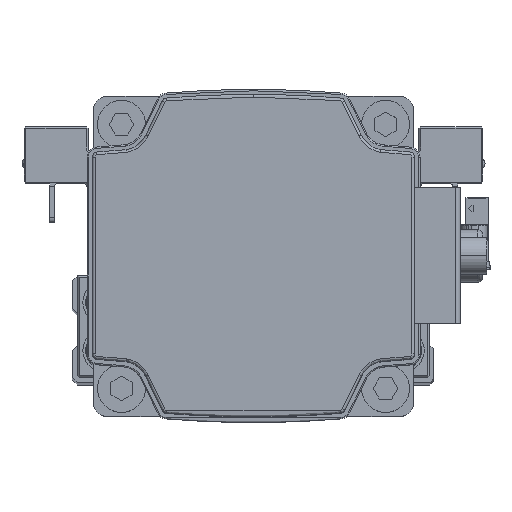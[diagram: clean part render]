
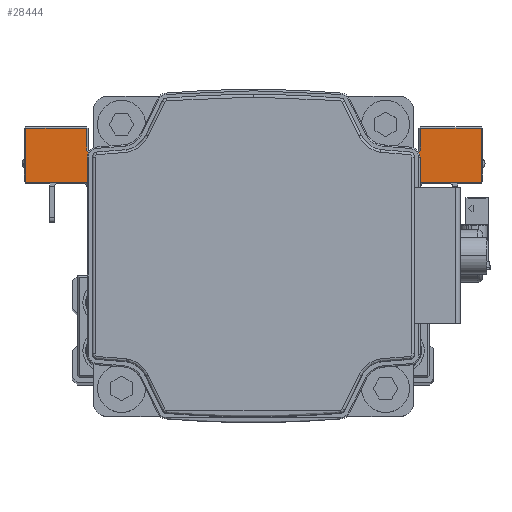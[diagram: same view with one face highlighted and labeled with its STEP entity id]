
A CAD part, top view. The second image highlights one B-rep face of the part: STEP entity #28444.
In plain terms, the highlighted planar face has unit normal (0, 0, 1) as drawn and (1, 0, 0) by its records, which use the part's own axes.
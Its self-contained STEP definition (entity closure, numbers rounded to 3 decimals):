
#525 = EDGE_LOOP ( 'NONE', ( #7866, #1945, #18145, #25231, #32655, #26023, #18901, #15842, #18084, #1996, #5198, #31383, #30307, #11603, #27189, #3724 ) ) ;
#659 = DIRECTION ( 'NONE',  ( 0., 0., 1. ) ) ;
#802 = EDGE_CURVE ( 'NONE', #25732, #29377, #17938, .T. ) ;
#1566 = DIRECTION ( 'NONE',  ( 0., 0., 1. ) ) ;
#1945 = ORIENTED_EDGE ( 'NONE', *, *, #4379, .T. ) ;
#1969 = VECTOR ( 'NONE', #5864, 1000. ) ;
#1995 = AXIS2_PLACEMENT_3D ( 'NONE', #23605, #35674, #8577 ) ;
#1996 = ORIENTED_EDGE ( 'NONE', *, *, #33451, .T. ) ;
#2128 = CARTESIAN_POINT ( 'NONE',  ( 25.5, 12.7, 30. ) ) ;
#2466 = EDGE_CURVE ( 'NONE', #30105, #31858, #20879, .T. ) ;
#2873 = EDGE_CURVE ( 'NONE', #12958, #6426, #19032, .T. ) ;
#2924 = DIRECTION ( 'NONE',  ( 0., 0., -1. ) ) ;
#3005 = DIRECTION ( 'NONE',  ( 0., 0., 1. ) ) ;
#3187 = DIRECTION ( 'NONE',  ( 0., 0., -1. ) ) ;
#3724 = ORIENTED_EDGE ( 'NONE', *, *, #18385, .T. ) ;
#4282 = VECTOR ( 'NONE', #3187, 1000. ) ;
#4379 = EDGE_CURVE ( 'NONE', #34092, #4758, #37243, .T. ) ;
#4758 = VERTEX_POINT ( 'NONE', #34238 ) ;
#4777 = CARTESIAN_POINT ( 'NONE',  ( 25.5, 7.5, -15. ) ) ;
#5118 = CARTESIAN_POINT ( 'NONE',  ( 25.5, 7.5, 42.7 ) ) ;
#5198 = ORIENTED_EDGE ( 'NONE', *, *, #802, .T. ) ;
#5218 = VECTOR ( 'NONE', #32530, 1000. ) ;
#5440 = VECTOR ( 'NONE', #17521, 1000. ) ;
#5478 = CARTESIAN_POINT ( 'NONE',  ( 25.5, 7.5, 15. ) ) ;
#5864 = DIRECTION ( 'NONE',  ( 0., 1., 0. ) ) ;
#5964 = PLANE ( 'NONE',  #13905 ) ;
#6426 = VERTEX_POINT ( 'NONE', #28048 ) ;
#6654 = EDGE_CURVE ( 'NONE', #19455, #20785, #32573, .T. ) ;
#6774 = CIRCLE ( 'NONE', #28889, 1.3 ) ;
#7308 = EDGE_CURVE ( 'NONE', #4758, #14283, #9569, .T. ) ;
#7866 = ORIENTED_EDGE ( 'NONE', *, *, #20089, .T. ) ;
#7927 = VERTEX_POINT ( 'NONE', #2128 ) ;
#8400 = LINE ( 'NONE', #20455, #5218 ) ;
#8564 = VECTOR ( 'NONE', #1566, 1000. ) ;
#8577 = DIRECTION ( 'NONE',  ( 0., 0., 1. ) ) ;
#8853 = DIRECTION ( 'NONE',  ( 0., 0., -1. ) ) ;
#9569 = LINE ( 'NONE', #21633, #19998 ) ;
#9772 = EDGE_CURVE ( 'NONE', #7927, #30105, #6774, .T. ) ;
#10144 = CARTESIAN_POINT ( 'NONE',  ( 25.5, 7.5, -42.7 ) ) ;
#10874 = CARTESIAN_POINT ( 'NONE',  ( 25.5, 17.7, 31.3 ) ) ;
#11603 = ORIENTED_EDGE ( 'NONE', *, *, #21164, .T. ) ;
#11719 = DIRECTION ( 'NONE',  ( -1., 0., 0. ) ) ;
#11733 = CARTESIAN_POINT ( 'NONE',  ( 25.5, 14., 30. ) ) ;
#11896 = VECTOR ( 'NONE', #16825, 1000. ) ;
#12279 = EDGE_CURVE ( 'NONE', #29377, #19455, #34065, .T. ) ;
#12523 = VECTOR ( 'NONE', #659, 1000. ) ;
#12958 = VERTEX_POINT ( 'NONE', #38464 ) ;
#13905 = AXIS2_PLACEMENT_3D ( 'NONE', #17996, #30084, #3005 ) ;
#14165 = CARTESIAN_POINT ( 'NONE',  ( 25.5, 5.5, 17. ) ) ;
#14213 = EDGE_CURVE ( 'NONE', #31858, #36149, #16575, .T. ) ;
#14283 = VERTEX_POINT ( 'NONE', #38127 ) ;
#14942 = LINE ( 'NONE', #27029, #34329 ) ;
#15084 = CARTESIAN_POINT ( 'NONE',  ( 25.5, 5.5, -15. ) ) ;
#15453 = CARTESIAN_POINT ( 'NONE',  ( 25.5, -7.5, -15. ) ) ;
#15670 = LINE ( 'NONE', #27744, #12523 ) ;
#15842 = ORIENTED_EDGE ( 'NONE', *, *, #2466, .T. ) ;
#16575 = LINE ( 'NONE', #28656, #8564 ) ;
#16825 = DIRECTION ( 'NONE',  ( 0., -1., 0. ) ) ;
#16981 = AXIS2_PLACEMENT_3D ( 'NONE', #14165, #26247, #38307 ) ;
#17083 = CARTESIAN_POINT ( 'NONE',  ( 25.5, -7.5, 15. ) ) ;
#17392 = AXIS2_PLACEMENT_3D ( 'NONE', #38824, #11719, #23796 ) ;
#17521 = DIRECTION ( 'NONE',  ( 0., -1., 0. ) ) ;
#17938 = LINE ( 'NONE', #30015, #19265 ) ;
#17996 = CARTESIAN_POINT ( 'NONE',  ( 25.5, 7.5, -15. ) ) ;
#18084 = ORIENTED_EDGE ( 'NONE', *, *, #14213, .T. ) ;
#18145 = ORIENTED_EDGE ( 'NONE', *, *, #7308, .T. ) ;
#18204 = LINE ( 'NONE', #30284, #4282 ) ;
#18385 = EDGE_CURVE ( 'NONE', #18431, #38305, #34480, .T. ) ;
#18431 = VERTEX_POINT ( 'NONE', #15084 ) ;
#18901 = ORIENTED_EDGE ( 'NONE', *, *, #9772, .T. ) ;
#19032 = CIRCLE ( 'NONE', #1995, 1.3 ) ;
#19265 = VECTOR ( 'NONE', #2924, 1000. ) ;
#19455 = VERTEX_POINT ( 'NONE', #28763 ) ;
#19632 = CARTESIAN_POINT ( 'NONE',  ( 25.5, 7.5, -42.7 ) ) ;
#19998 = VECTOR ( 'NONE', #33711, 1000. ) ;
#20089 = EDGE_CURVE ( 'NONE', #38305, #34092, #18204, .T. ) ;
#20455 = CARTESIAN_POINT ( 'NONE',  ( 25.5, 7.5, -31.3 ) ) ;
#20785 = VERTEX_POINT ( 'NONE', #17083 ) ;
#20879 = LINE ( 'NONE', #32966, #1969 ) ;
#21164 = EDGE_CURVE ( 'NONE', #20785, #23296, #23879, .T. ) ;
#21470 = CARTESIAN_POINT ( 'NONE',  ( 25.5, 7.5, 17. ) ) ;
#21633 = CARTESIAN_POINT ( 'NONE',  ( 25.5, 17.7, -15. ) ) ;
#22206 = DIRECTION ( 'NONE',  ( 0., 1., 0. ) ) ;
#23296 = VERTEX_POINT ( 'NONE', #15453 ) ;
#23605 = CARTESIAN_POINT ( 'NONE',  ( 25.5, 14., -30. ) ) ;
#23796 = DIRECTION ( 'NONE',  ( 0., 0., 1. ) ) ;
#23804 = DIRECTION ( 'NONE',  ( -1., 0., 0. ) ) ;
#23879 = LINE ( 'NONE', #35947, #38584 ) ;
#24580 = EDGE_CURVE ( 'NONE', #6426, #7927, #15670, .T. ) ;
#24746 = EDGE_CURVE ( 'NONE', #18431, #23296, #31885, .T. ) ;
#25231 = ORIENTED_EDGE ( 'NONE', *, *, #38957, .T. ) ;
#25732 = VERTEX_POINT ( 'NONE', #5118 ) ;
#26023 = ORIENTED_EDGE ( 'NONE', *, *, #24580, .T. ) ;
#26247 = DIRECTION ( 'NONE',  ( -1., 0., 0. ) ) ;
#27029 = CARTESIAN_POINT ( 'NONE',  ( 25.5, 7.5, 42.7 ) ) ;
#27189 = ORIENTED_EDGE ( 'NONE', *, *, #24746, .F. ) ;
#27744 = CARTESIAN_POINT ( 'NONE',  ( 25.5, 12.7, 30. ) ) ;
#28048 = CARTESIAN_POINT ( 'NONE',  ( 25.5, 12.7, -30. ) ) ;
#28444 = ADVANCED_FACE ( 'NONE', ( #33067 ), #5964, .F. ) ;
#28451 = CARTESIAN_POINT ( 'NONE',  ( 25.5, 17.7, 42.7 ) ) ;
#28656 = CARTESIAN_POINT ( 'NONE',  ( 25.5, 17.7, -15. ) ) ;
#28763 = CARTESIAN_POINT ( 'NONE',  ( 25.5, 5.5, 15. ) ) ;
#28889 = AXIS2_PLACEMENT_3D ( 'NONE', #11733, #23804, #35881 ) ;
#29377 = VERTEX_POINT ( 'NONE', #21470 ) ;
#30015 = CARTESIAN_POINT ( 'NONE',  ( 25.5, 7.5, 43. ) ) ;
#30084 = DIRECTION ( 'NONE',  ( -1., 0., 0. ) ) ;
#30105 = VERTEX_POINT ( 'NONE', #35970 ) ;
#30284 = CARTESIAN_POINT ( 'NONE',  ( 25.5, 7.5, 43. ) ) ;
#30307 = ORIENTED_EDGE ( 'NONE', *, *, #6654, .T. ) ;
#31383 = ORIENTED_EDGE ( 'NONE', *, *, #12279, .T. ) ;
#31858 = VERTEX_POINT ( 'NONE', #10874 ) ;
#31885 = LINE ( 'NONE', #4777, #11896 ) ;
#32530 = DIRECTION ( 'NONE',  ( 0., -1., 0. ) ) ;
#32573 = LINE ( 'NONE', #5478, #5440 ) ;
#32655 = ORIENTED_EDGE ( 'NONE', *, *, #2873, .T. ) ;
#32966 = CARTESIAN_POINT ( 'NONE',  ( 25.5, 7.5, 31.3 ) ) ;
#33067 = FACE_OUTER_BOUND ( 'NONE', #525, .T. ) ;
#33451 = EDGE_CURVE ( 'NONE', #36149, #25732, #14942, .T. ) ;
#33690 = VECTOR ( 'NONE', #22206, 1000. ) ;
#33711 = DIRECTION ( 'NONE',  ( 0., 0., 1. ) ) ;
#34065 = CIRCLE ( 'NONE', #16981, 2. ) ;
#34092 = VERTEX_POINT ( 'NONE', #19632 ) ;
#34238 = CARTESIAN_POINT ( 'NONE',  ( 25.5, 17.7, -42.7 ) ) ;
#34329 = VECTOR ( 'NONE', #39087, 1000. ) ;
#34378 = CARTESIAN_POINT ( 'NONE',  ( 25.5, 7.5, -17. ) ) ;
#34480 = CIRCLE ( 'NONE', #17392, 2. ) ;
#35674 = DIRECTION ( 'NONE',  ( -1., 0., 0. ) ) ;
#35881 = DIRECTION ( 'NONE',  ( 0., 0., 1. ) ) ;
#35947 = CARTESIAN_POINT ( 'NONE',  ( 25.5, -7.5, -15. ) ) ;
#35970 = CARTESIAN_POINT ( 'NONE',  ( 25.5, 14., 31.3 ) ) ;
#36149 = VERTEX_POINT ( 'NONE', #28451 ) ;
#37243 = LINE ( 'NONE', #10144, #33690 ) ;
#38127 = CARTESIAN_POINT ( 'NONE',  ( 25.5, 17.7, -31.3 ) ) ;
#38305 = VERTEX_POINT ( 'NONE', #34378 ) ;
#38307 = DIRECTION ( 'NONE',  ( 0., 0., 1. ) ) ;
#38464 = CARTESIAN_POINT ( 'NONE',  ( 25.5, 14., -31.3 ) ) ;
#38584 = VECTOR ( 'NONE', #8853, 1000. ) ;
#38824 = CARTESIAN_POINT ( 'NONE',  ( 25.5, 5.5, -17. ) ) ;
#38957 = EDGE_CURVE ( 'NONE', #14283, #12958, #8400, .T. ) ;
#39087 = DIRECTION ( 'NONE',  ( 0., -1., 0. ) ) ;
